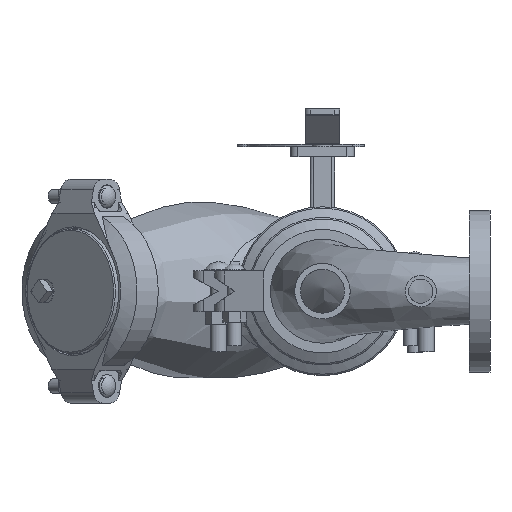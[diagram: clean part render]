
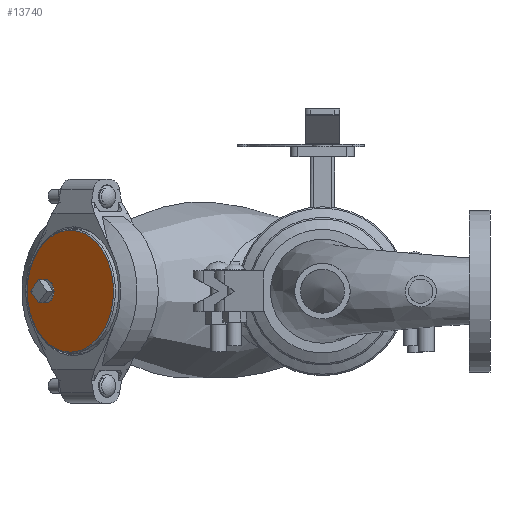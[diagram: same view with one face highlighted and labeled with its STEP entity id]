
A CAD part, front view. The second image highlights one B-rep face of the part: STEP entity #13740.
In plain terms, the highlighted planar face has unit normal (-0.707, -0.707, 0) as drawn and (1, 0, 0) by its records, which use the part's own axes.
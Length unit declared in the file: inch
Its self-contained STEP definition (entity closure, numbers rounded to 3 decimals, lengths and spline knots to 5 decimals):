
#2729=FACE_BOUND('',#3904,.T.);
#3106=FACE_OUTER_BOUND('',#3903,.T.);
#3903=EDGE_LOOP('',(#9846,#9847));
#3904=EDGE_LOOP('',(#9848));
#4717=CIRCLE('',#15083,0.5);
#4725=CIRCLE('',#15094,2.6375);
#4726=CIRCLE('',#15095,2.6375);
#5665=VERTEX_POINT('',#25268);
#5673=VERTEX_POINT('',#25289);
#5674=VERTEX_POINT('',#25290);
#7193=EDGE_CURVE('',#5665,#5665,#4717,.T.);
#7202=EDGE_CURVE('',#5673,#5674,#4725,.T.);
#7203=EDGE_CURVE('',#5674,#5673,#4726,.T.);
#9846=ORIENTED_EDGE('',*,*,#7202,.T.);
#9847=ORIENTED_EDGE('',*,*,#7203,.T.);
#9848=ORIENTED_EDGE('',*,*,#7193,.T.);
#12427=PLANE('',#15097);
#13740=ADVANCED_FACE('',(#3106,#2729),#12427,.T.);
#15083=AXIS2_PLACEMENT_3D('',#25270,#17527,#17528);
#15094=AXIS2_PLACEMENT_3D('',#25291,#17550,#17551);
#15095=AXIS2_PLACEMENT_3D('',#25292,#17552,#17553);
#15097=AXIS2_PLACEMENT_3D('',#25294,#17556,#17557);
#17527=DIRECTION('center_axis',(-1.,0.,0.));
#17528=DIRECTION('ref_axis',(0.,0.,1.));
#17550=DIRECTION('center_axis',(1.,0.,0.));
#17551=DIRECTION('ref_axis',(0.,0.,-1.));
#17552=DIRECTION('center_axis',(1.,0.,0.));
#17553=DIRECTION('ref_axis',(0.,0.,-1.));
#17556=DIRECTION('center_axis',(1.,0.,0.));
#17557=DIRECTION('ref_axis',(0.,0.,-1.));
#25268=CARTESIAN_POINT('',(1.13,1.5,-0.5));
#25270=CARTESIAN_POINT('Origin',(1.13,1.5,0.));
#25289=CARTESIAN_POINT('',(1.13,2.6375,0.));
#25290=CARTESIAN_POINT('',(1.13,0.,2.6375));
#25291=CARTESIAN_POINT('Origin',(1.13,0.,0.));
#25292=CARTESIAN_POINT('Origin',(1.13,0.,0.));
#25294=CARTESIAN_POINT('Origin',(1.13,0.,0.));
